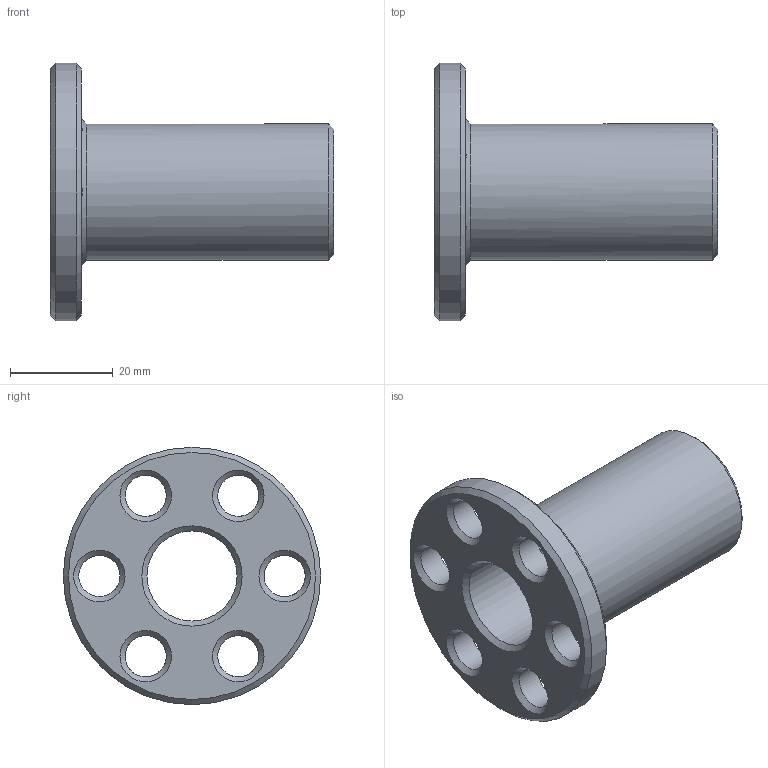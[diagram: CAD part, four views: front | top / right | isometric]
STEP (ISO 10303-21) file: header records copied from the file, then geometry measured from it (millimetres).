
FILE_DESCRIPTION( ( 'Unknown' ), '1' );
FILE_NAME( 'F:/navkite transat/construction/2016/3D ET ASSEMBLAGES/kites/vis int kite.stp', 'Unknown', ( 'GMA' ), ( 'Unknown' ), 'XStep 1.0', 'Unknown', ' ' );
FILE_SCHEMA( ( 'automotive_design' ) );
Length unit declared in the file: millimetre
Products named in the file (1): 1
Bounding box: 55 x 50 x 50 mm (x, y, z)
Volume: 23194.4 mm3; surface area: 11317.4 mm2
Topology: 1 solids, 1 shells, 24 faces, 71 edges, 44 vertices
Faces by surface type: cone 12, cylinder 9, plane 3
Full cylindrical faces by diameter (mm): 8 x6, 17.5 x1, 26.44 x1, 50 x1
Entity records: 902 total; most frequent: CARTESIAN_POINT 155, DIRECTION 120, ORIENTED_EDGE 82, AXIS2_PLACEMENT_3D 60, EDGE_LOOP 54, EDGE_CURVE 41, VERTEX_POINT 35, CIRCLE 35
